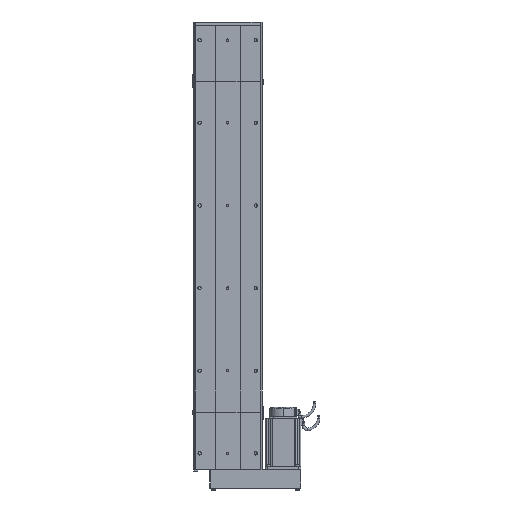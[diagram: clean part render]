
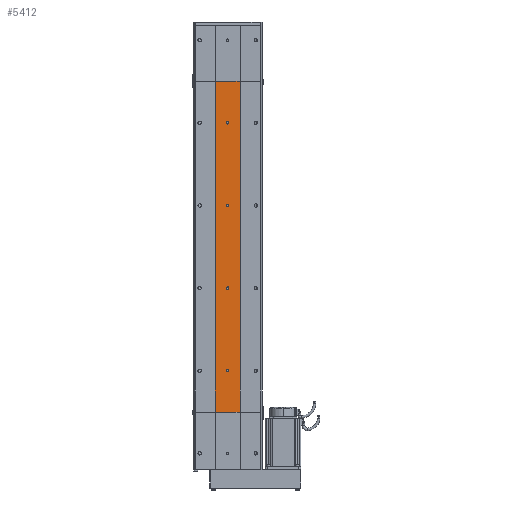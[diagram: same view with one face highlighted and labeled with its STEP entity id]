
A CAD part, front view. The second image highlights one B-rep face of the part: STEP entity #5412.
In plain terms, the highlighted planar face has unit normal (0, -1, 0).
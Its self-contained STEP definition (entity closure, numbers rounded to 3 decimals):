
#5106 = VERTEX_POINT ( 'NONE', #71047 ) ;
#5111 = VERTEX_POINT ( 'NONE', #71049 ) ;
#5133 = EDGE_CURVE ( 'NONE', #5111, #5106, #71065, .T. ) ;
#5220 = EDGE_CURVE ( 'NONE', #5224, #5227, #71137, .T. ) ;
#5224 = VERTEX_POINT ( 'NONE', #71136 ) ;
#5227 = VERTEX_POINT ( 'NONE', #71193 ) ;
#5380 = ORIENTED_EDGE ( 'NONE', *, *, #5394, .F. ) ;
#5383 = ORIENTED_EDGE ( 'NONE', *, *, #32072, .F. ) ;
#5384 = EDGE_LOOP ( 'NONE', ( #5385, #5411 ) ) ;
#5385 = ORIENTED_EDGE ( 'NONE', *, *, #5415, .F. ) ;
#5389 = ORIENTED_EDGE ( 'NONE', *, *, #56697, .F. ) ;
#5394 = EDGE_CURVE ( 'NONE', #5227, #5224, #71412, .T. ) ;
#5395 = EDGE_LOOP ( 'NONE', ( #5399, #5421, #5428, #5426 ) ) ;
#5399 = ORIENTED_EDGE ( 'NONE', *, *, #23332, .T. ) ;
#5402 = EDGE_CURVE ( 'NONE', #5106, #21240, #71407, .T. ) ;
#5403 = EDGE_LOOP ( 'NONE', ( #5405, #5389 ) ) ;
#5405 = ORIENTED_EDGE ( 'NONE', *, *, #5413, .F. ) ;
#5406 = EDGE_LOOP ( 'NONE', ( #5380, #5418 ) ) ;
#5407 = EDGE_LOOP ( 'NONE', ( #5408, #5383 ) ) ;
#5408 = ORIENTED_EDGE ( 'NONE', *, *, #5416, .F. ) ;
#5411 = ORIENTED_EDGE ( 'NONE', *, *, #29955, .F. ) ;
#5412 = ADVANCED_FACE ( 'NONE', ( #71399, #71395, #71394, #71400, #71401 ), #71386, .F. ) ;
#5413 = EDGE_CURVE ( 'NONE', #56696, #28386, #71449, .T. ) ;
#5415 = EDGE_CURVE ( 'NONE', #29951, #56180, #71442, .T. ) ;
#5416 = EDGE_CURVE ( 'NONE', #32082, #32032, #71455, .T. ) ;
#5418 = ORIENTED_EDGE ( 'NONE', *, *, #5220, .F. ) ;
#5421 = ORIENTED_EDGE ( 'NONE', *, *, #5402, .F. ) ;
#5423 = EDGE_CURVE ( 'NONE', #5111, #21731, #71433, .T. ) ;
#5426 = ORIENTED_EDGE ( 'NONE', *, *, #5423, .T. ) ;
#5428 = ORIENTED_EDGE ( 'NONE', *, *, #5133, .F. ) ;
#21240 = VERTEX_POINT ( 'NONE', #31780 ) ;
#21731 = VERTEX_POINT ( 'NONE', #32376 ) ;
#23332 = EDGE_CURVE ( 'NONE', #21731, #21240, #33872, .T. ) ;
#28386 = VERTEX_POINT ( 'NONE', #34113 ) ;
#29951 = VERTEX_POINT ( 'NONE', #34127 ) ;
#29955 = EDGE_CURVE ( 'NONE', #56180, #29951, #34128, .T. ) ;
#31780 = CARTESIAN_POINT ( 'NONE',  ( -30., -32.5, 800. ) ) ;
#32032 = VERTEX_POINT ( 'NONE', #34636 ) ;
#32072 = EDGE_CURVE ( 'NONE', #32032, #32082, #34632, .T. ) ;
#32082 = VERTEX_POINT ( 'NONE', #34669 ) ;
#32376 = CARTESIAN_POINT ( 'NONE',  ( 30., -32.5, 800. ) ) ;
#33868 = DIRECTION ( 'NONE',  ( -1., 0., 0. ) ) ;
#33869 = VECTOR ( 'NONE', #33868, 1000. ) ;
#33870 = CARTESIAN_POINT ( 'NONE',  ( -30., -32.5, 800. ) ) ;
#33872 = LINE ( 'NONE', #33870, #33869 ) ;
#34113 = CARTESIAN_POINT ( 'NONE',  ( 0., -32.5, 703. ) ) ;
#34127 = CARTESIAN_POINT ( 'NONE',  ( 0., -32.5, 497. ) ) ;
#34128 = CIRCLE ( 'NONE', #34175, 3. ) ;
#34172 = DIRECTION ( 'NONE',  ( 0., 0., -1. ) ) ;
#34173 = DIRECTION ( 'NONE',  ( 0., -1., 0. ) ) ;
#34174 = CARTESIAN_POINT ( 'NONE',  ( 0., -32.5, 500. ) ) ;
#34175 = AXIS2_PLACEMENT_3D ( 'NONE', #34174, #34173, #34172 ) ;
#34622 = CARTESIAN_POINT ( 'NONE',  ( 0., -32.5, 300. ) ) ;
#34632 = CIRCLE ( 'NONE', #34668, 3. ) ;
#34636 = CARTESIAN_POINT ( 'NONE',  ( 0., -32.5, 303. ) ) ;
#34666 = DIRECTION ( 'NONE',  ( 0., 0., -1. ) ) ;
#34667 = DIRECTION ( 'NONE',  ( 0., -1., 0. ) ) ;
#34668 = AXIS2_PLACEMENT_3D ( 'NONE', #34622, #34667, #34666 ) ;
#34669 = CARTESIAN_POINT ( 'NONE',  ( 0., -32.5, 297. ) ) ;
#36273 = CARTESIAN_POINT ( 'NONE',  ( 0., -32.5, 503. ) ) ;
#36417 = DIRECTION ( 'NONE',  ( 0., 0., -1. ) ) ;
#36418 = DIRECTION ( 'NONE',  ( 0., -1., 0. ) ) ;
#36428 = CARTESIAN_POINT ( 'NONE',  ( 0., -32.5, 697. ) ) ;
#36429 = AXIS2_PLACEMENT_3D ( 'NONE', #36435, #36418, #36417 ) ;
#36434 = CIRCLE ( 'NONE', #36429, 3. ) ;
#36435 = CARTESIAN_POINT ( 'NONE',  ( 0., -32.5, 700. ) ) ;
#56180 = VERTEX_POINT ( 'NONE', #36273 ) ;
#56696 = VERTEX_POINT ( 'NONE', #36428 ) ;
#56697 = EDGE_CURVE ( 'NONE', #28386, #56696, #36434, .T. ) ;
#71047 = CARTESIAN_POINT ( 'NONE',  ( -30., -32.5, 0. ) ) ;
#71049 = CARTESIAN_POINT ( 'NONE',  ( 30., -32.5, 0. ) ) ;
#71062 = DIRECTION ( 'NONE',  ( -1., 0., 0. ) ) ;
#71063 = VECTOR ( 'NONE', #71062, 1000. ) ;
#71064 = CARTESIAN_POINT ( 'NONE',  ( -30., -32.5, 0. ) ) ;
#71065 = LINE ( 'NONE', #71064, #71063 ) ;
#71136 = CARTESIAN_POINT ( 'NONE',  ( 0., -32.5, 103. ) ) ;
#71137 = CIRCLE ( 'NONE', #71164, 3. ) ;
#71161 = DIRECTION ( 'NONE',  ( 0., 0., -1. ) ) ;
#71162 = DIRECTION ( 'NONE',  ( 0., -1., 0. ) ) ;
#71163 = CARTESIAN_POINT ( 'NONE',  ( 0., -32.5, 100. ) ) ;
#71164 = AXIS2_PLACEMENT_3D ( 'NONE', #71163, #71162, #71161 ) ;
#71193 = CARTESIAN_POINT ( 'NONE',  ( 0., -32.5, 97. ) ) ;
#71353 = VECTOR ( 'NONE', #71367, 1000. ) ;
#71367 = DIRECTION ( 'NONE',  ( 0., 0., 1. ) ) ;
#71386 = PLANE ( 'NONE',  #71418 ) ;
#71388 = DIRECTION ( 'NONE',  ( 0., 0., 1. ) ) ;
#71394 = FACE_BOUND ( 'NONE', #5407, .T. ) ;
#71395 = FACE_BOUND ( 'NONE', #5384, .T. ) ;
#71396 = CARTESIAN_POINT ( 'NONE',  ( -30., -32.5, 0. ) ) ;
#71398 = DIRECTION ( 'NONE',  ( 0., 1., 0. ) ) ;
#71399 = FACE_BOUND ( 'NONE', #5403, .T. ) ;
#71400 = FACE_BOUND ( 'NONE', #5406, .T. ) ;
#71401 = FACE_OUTER_BOUND ( 'NONE', #5395, .T. ) ;
#71402 = DIRECTION ( 'NONE',  ( 0., 0., -1. ) ) ;
#71403 = DIRECTION ( 'NONE',  ( 0., -1., 0. ) ) ;
#71404 = CARTESIAN_POINT ( 'NONE',  ( 0., -32.5, 100. ) ) ;
#71405 = AXIS2_PLACEMENT_3D ( 'NONE', #71404, #71403, #71402 ) ;
#71406 = CARTESIAN_POINT ( 'NONE',  ( -30., -32.5, 0. ) ) ;
#71407 = LINE ( 'NONE', #71406, #71353 ) ;
#71412 = CIRCLE ( 'NONE', #71405, 3. ) ;
#71418 = AXIS2_PLACEMENT_3D ( 'NONE', #71396, #71398, #71388 ) ;
#71429 = DIRECTION ( 'NONE',  ( 0., 0., 1. ) ) ;
#71431 = VECTOR ( 'NONE', #71429, 1000. ) ;
#71432 = CARTESIAN_POINT ( 'NONE',  ( 30., -32.5, 0. ) ) ;
#71433 = LINE ( 'NONE', #71432, #71431 ) ;
#71435 = DIRECTION ( 'NONE',  ( 0., 0., -1. ) ) ;
#71436 = DIRECTION ( 'NONE',  ( 0., -1., 0. ) ) ;
#71438 = AXIS2_PLACEMENT_3D ( 'NONE', #71453, #71436, #71435 ) ;
#71439 = DIRECTION ( 'NONE',  ( 0., 0., -1. ) ) ;
#71440 = DIRECTION ( 'NONE',  ( 0., -1., 0. ) ) ;
#71441 = AXIS2_PLACEMENT_3D ( 'NONE', #71452, #71440, #71439 ) ;
#71442 = CIRCLE ( 'NONE', #71441, 3. ) ;
#71445 = DIRECTION ( 'NONE',  ( 0., 0., -1. ) ) ;
#71446 = DIRECTION ( 'NONE',  ( 0., -1., 0. ) ) ;
#71447 = CARTESIAN_POINT ( 'NONE',  ( 0., -32.5, 700. ) ) ;
#71448 = AXIS2_PLACEMENT_3D ( 'NONE', #71447, #71446, #71445 ) ;
#71449 = CIRCLE ( 'NONE', #71448, 3. ) ;
#71452 = CARTESIAN_POINT ( 'NONE',  ( 0., -32.5, 500. ) ) ;
#71453 = CARTESIAN_POINT ( 'NONE',  ( 0., -32.5, 300. ) ) ;
#71455 = CIRCLE ( 'NONE', #71438, 3. ) ;
